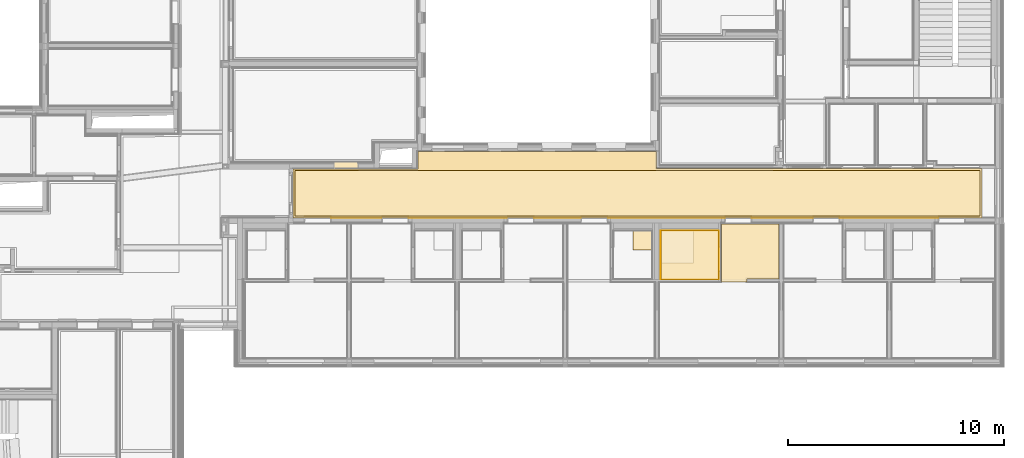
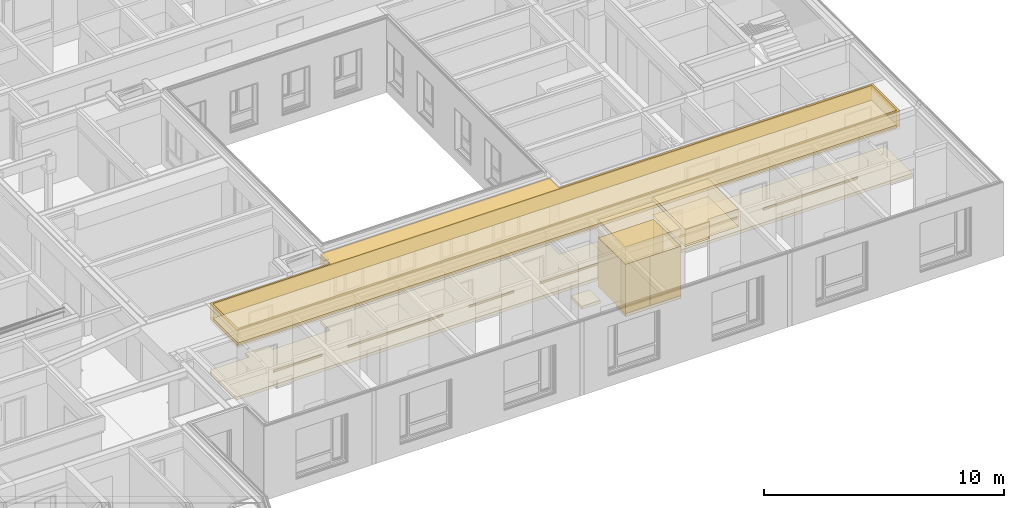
# One storey, part 186 of 222: 22 coverings.
"""IFC4 building model written with IfcOpenShell, lengths in metres."""

from ifc_helpers import new_model, entity, si_unit, converted_unit, derived_unit, frame, frame_2d, origin, origin_with_axes, place, context, subcontext, project, spatial, polyline, rectangle, outline, extrude, material, layer, layer_set, layer_usage, element, save


model = new_model("IFC4")

# Units and contexts
model_context = context("Model", 3, precision=1e-05, world=origin())
body_context = subcontext(model_context, "Body", "Model", "MODEL_VIEW")
ifc_project = project(units=[si_unit("LENGTHUNIT", "METRE"), si_unit("AREAUNIT", "SQUARE_METRE"), si_unit("VOLUMEUNIT", "CUBIC_METRE"), si_unit("MASSUNIT", "GRAM", prefix="KILO"), converted_unit("PLANEANGLEUNIT", "DEGREE", entity("IfcPlaneAngleMeasure", 0.0174532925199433), si_unit("PLANEANGLEUNIT", "RADIAN"), dimensions=[0, 0, 0, 0, 0, 0, 0]), derived_unit("THERMALTRANSMITTANCEUNIT", [(si_unit("POWERUNIT", "WATT"), 1), (si_unit("THERMODYNAMICTEMPERATUREUNIT", "KELVIN"), -1), (si_unit("LENGTHUNIT", "METRE"), -2)]), derived_unit("VOLUMETRICFLOWRATEUNIT", [(si_unit("LENGTHUNIT", "METRE"), 3), (converted_unit("TIMEUNIT", "hour", entity("IfcTimeMeasure", 3600.0), si_unit("TIMEUNIT", "SECOND"), dimensions=[0, 0, 1, 0, 0, 0, 0]), -1), (si_unit("LENGTHUNIT", "METRE"), -1)])], contexts=[model_context])

# Site, building, storey, space
site_placement = place(None, origin())
site = spatial("IfcSite", under=ifc_project, at=site_placement, Name="Psychiatrie Neubau Wunstorf", CompositionType="ELEMENT")
building_placement = place(site_placement, origin())
building = spatial("IfcBuilding", under=site, at=building_placement, Name="Neubau H2 Stationsgebäude", CompositionType="ELEMENT")
storey_placement = place(building_placement, frame((0.0, 0.0, 3.6)))
storey = spatial("IfcBuildingStorey", under=building, at=storey_placement, Name="H2 Ebene +1", CompositionType="ELEMENT", Elevation=3.6)
space_1_placement = place(storey_placement, frame((73.3949999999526, 5.33250000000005, 0.0)))
space_1 = spatial("IfcSpace", under=storey, at=space_1_placement, Name="WUN-H2-E01-073", CompositionType="ELEMENT")

# Coverings
ifc_material_1 = material(Name="97")
ifc_layer_1 = layer(ifc_material_1, 0.001)
ifc_layer_set_1 = layer_set([ifc_layer_1])
ifc_layer_usage_1 = layer_usage(ifc_layer_set_1, "AXIS3", "POSITIVE", 0.0)
covering_1_placement = place(space_1_placement, frame((1.77500000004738, 0.0, 0.8)))
element("IfcCovering", 1, at=covering_1_placement, inside=space_1, material=ifc_layer_usage_1, Name="Handlauf", PredefinedType="CLADDING", context=body_context, shape_type="SweptSolid", body=[
    extrude(rectangle(XDim=0.1, YDim=5.39999999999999, at=frame_2d((2.69999999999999, 0.05), x_axis=(0.0, 1.0))), frame((12.8050000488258, 0.0, 0.1), z_axis=(3.3684988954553e-16, 1.0, 0.0), x_axis=(1.0, -3.3684988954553e-16, 0.0)), (0.0, 0.0, 1.0), 0.001),
    extrude(rectangle(XDim=0.1, YDim=2.32, at=frame_2d((-1.16, -0.05), x_axis=(0.0, -1.0))), frame((2.32, 0.0, 0.0), z_axis=(3.920235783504e-16, 1.0, 0.0), x_axis=(1.0, -3.920235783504e-16, 0.0)), (0.0, 0.0, 1.0), 0.001),
    extrude(rectangle(XDim=0.1, YDim=2.15500004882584, at=frame_2d((-1.07750002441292, -0.05), x_axis=(0.0, -1.0))), frame((11.5450000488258, 0.0, 0.0), z_axis=(2.11019647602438e-16, 1.0, 4.54747350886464e-15), x_axis=(1.0, -2.11019647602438e-16, 0.0)), (0.0, 0.0, 1.0), 0.001),
    extrude(rectangle(XDim=0.1, YDim=4.54999999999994, at=frame_2d((-2.27499999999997, -0.05), x_axis=(0.0, -1.0))), frame((8.12999999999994, 0.0, 0.0), z_axis=(1.99888945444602e-16, 1.0, 0.0), x_axis=(1.0, -1.99888945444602e-16, 0.0)), (0.0, 0.0, 1.0), 0.001),
    extrude(rectangle(XDim=0.1, YDim=2.80499995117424, at=frame_2d((1.40249997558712, 0.05), x_axis=(0.0, 1.0))), frame((19.4650000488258, 0.0, 0.1), z_axis=(3.24240541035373e-16, 1.0, -9.09494701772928e-15), x_axis=(1.0, -3.24240541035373e-16, 0.0)), (0.0, 0.0, 1.0), 0.001),
    extrude(rectangle(XDim=0.0999999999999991, YDim=4.54999999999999, at=frame_2d((2.275, 0.0499999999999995), x_axis=(1.4551915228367e-13, 1.0))), frame((23.53, 0.0, 0.0999999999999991), z_axis=(1.998889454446e-16, 1.0, 1.45438349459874e-29), x_axis=(1.0, -1.998889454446e-16, 0.0)), (0.0, 0.0, 1.0), 0.001),
])
ifc_material_2 = material()
ifc_layer_2 = layer(ifc_material_2, 0.036)
ifc_layer_set_2 = layer_set([ifc_layer_2])
ifc_layer_usage_2 = layer_usage(ifc_layer_set_2, "AXIS3", "POSITIVE", 0.0)
covering_2_placement = place(space_1_placement, frame((0.0, 0.0, 3.55)))
element("IfcCovering", 2, at=covering_2_placement, inside=space_1, material=ifc_layer_usage_2, Name="Gipsfaserplatten 2-lagig (BSK)", PredefinedType="CEILING", context=body_context, shape_type="SweptSolid", body=[
    extrude(outline(polyline([(5.7849996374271, 0.0), (16.8160000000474, 0.0), (16.8160000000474, 0.789000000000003), (31.8940000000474, 0.789000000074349), (31.8940000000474, 3.08149999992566), (0.0, 3.08149999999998), (0.0, 0.806499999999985), (5.7849996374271, 0.806499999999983), (5.7849996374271, 0.0)]), holes=[polyline([(31.7940000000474, 2.98149999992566), (31.7940000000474, 0.889000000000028), (0.1, 0.889000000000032), (0.1, 2.98149999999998), (31.7940000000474, 2.98149999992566)])]), frame((0.0, 3.08149999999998, 0.0), z_axis=(0.0, 0.0, -1.0), x_axis=(1.0, 0.0, 0.0)), (0.0, 0.0, 1.0), 0.036),
])
ifc_material_3 = material(Name="Installationshöhe")
ifc_layer_3 = layer(ifc_material_3, 0.714)
ifc_layer_set_3 = layer_set([ifc_layer_3])
ifc_layer_usage_3 = layer_usage(ifc_layer_set_3, "AXIS3", "POSITIVE", 0.0)
covering_3_placement = place(space_1_placement, frame((0.0, 0.0, 3.514)))
element("IfcCovering", 3, at=covering_3_placement, inside=space_1, material=ifc_layer_usage_3, Name="Gipsfaserplatten 2-lagig (BSK)", PredefinedType="CEILING", context=body_context, shape_type="SweptSolid", body=[
    extrude(outline(polyline([(5.7849996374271, 0.0), (16.8160000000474, 0.0), (16.8160000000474, 0.789000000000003), (31.8940000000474, 0.789000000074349), (31.8940000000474, 3.08149999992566), (0.0, 3.08149999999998), (0.0, 0.806499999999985), (5.7849996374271, 0.806499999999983), (5.7849996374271, 0.0)]), holes=[polyline([(31.7940000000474, 2.98149999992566), (31.7940000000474, 0.889000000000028), (0.1, 0.889000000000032), (0.1, 2.98149999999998), (31.7940000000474, 2.98149999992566)])]), frame((0.0, 3.08149999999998, 0.0), z_axis=(0.0, 0.0, -1.0), x_axis=(1.0, 0.0, 0.0)), (0.0, 0.0, 1.0), 0.714),
])
ifc_material_4 = material(Name="A1")
ifc_layer_4 = layer(ifc_material_4, 0.15)
ifc_layer_set_4 = layer_set([ifc_layer_4])
ifc_layer_usage_4 = layer_usage(ifc_layer_set_4, "AXIS3", "POSITIVE", 0.0)
covering_4_placement = place(space_1_placement, frame((0.0, 0.0, 2.8)))
element("IfcCovering", 4, at=covering_4_placement, inside=space_1, material=ifc_layer_usage_4, Name="Gipsfaserplatten 2-lagig (BSK)", PredefinedType="CEILING", context=body_context, shape_type="SweptSolid", body=[
    extrude(outline(polyline([(5.7849996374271, 0.0), (16.8160000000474, 0.0), (16.8160000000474, 0.789000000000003), (31.8940000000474, 0.789000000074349), (31.8940000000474, 3.08149999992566), (0.0, 3.08149999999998), (0.0, 0.806499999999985), (5.7849996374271, 0.806499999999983), (5.7849996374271, 0.0)]), holes=[polyline([(31.7940000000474, 2.98149999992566), (31.7940000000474, 0.889000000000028), (0.1, 0.889000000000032), (0.1, 2.98149999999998), (31.7940000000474, 2.98149999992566)])]), frame((0.0, 3.08149999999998, 0.0), z_axis=(0.0, 0.0, -1.0), x_axis=(1.0, 0.0, 0.0)), (0.0, 0.0, 1.0), 0.15),
])
ifc_material_5 = material(Name="D1")
ifc_layer_5 = layer(ifc_material_5, 0.001)
ifc_layer_set_5 = layer_set([ifc_layer_5])
ifc_layer_usage_5 = layer_usage(ifc_layer_set_5, "AXIS3", "POSITIVE", 0.0)
covering_5_placement = place(space_1_placement, frame((0.0, 0.0, 2.65)))
element("IfcCovering", 5, at=covering_5_placement, inside=space_1, material=ifc_layer_usage_5, Name="Gipsfaserplatten 2-lagig (BSK)", PredefinedType="CEILING", context=body_context, shape_type="SweptSolid", body=[
    extrude(outline(polyline([(5.7849996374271, 0.0), (16.8160000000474, 0.0), (16.8160000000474, 0.789000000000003), (31.8940000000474, 0.789000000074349), (31.8940000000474, 3.08149999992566), (0.0, 3.08149999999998), (0.0, 0.806499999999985), (5.7849996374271, 0.806499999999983), (5.7849996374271, 0.0)]), holes=[polyline([(31.7940000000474, 2.98149999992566), (31.7940000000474, 0.889000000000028), (0.1, 0.889000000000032), (0.1, 2.98149999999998), (31.7940000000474, 2.98149999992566)])]), frame((0.0, 3.08149999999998, 0.0), z_axis=(0.0, 0.0, -1.0), x_axis=(1.0, 0.0, 0.0)), (0.0, 0.0, 1.0), 0.001),
])
ifc_material_6 = material()
ifc_layer_6 = layer(ifc_material_6, 0.036)
ifc_layer_set_6 = layer_set([ifc_layer_6])
ifc_layer_usage_6 = layer_usage(ifc_layer_set_6, "AXIS3", "POSITIVE", 0.0)
covering_6_placement = place(space_1_placement, frame((0.1, 0.1, 3.55)))
element("IfcCovering", 6, at=covering_6_placement, inside=space_1, material=ifc_layer_usage_6, Name="Gipsfaserplatten 2-lagig (BSK)", PredefinedType="CEILING", context=body_context, shape_type="SweptSolid", body=[
    extrude(rectangle(XDim=2.09249999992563, YDim=31.6940000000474, at=frame_2d((-15.8470000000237, 1.04624999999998), x_axis=(-6.95432030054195e-15, 1.0))), frame((31.6940000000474, 2.09249999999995, 0.0), z_axis=(0.0, 0.0, -1.0), x_axis=(1.0, 0.0, 0.0)), (0.0, 0.0, 1.0), 0.036),
])
ifc_material_7 = material(Name="Installationshöhe")
ifc_layer_7 = layer(ifc_material_7, 0.714)
ifc_layer_set_7 = layer_set([ifc_layer_7])
ifc_layer_usage_7 = layer_usage(ifc_layer_set_7, "AXIS3", "POSITIVE", 0.0)
covering_7_placement = place(space_1_placement, frame((0.1, 0.1, 3.514)))
element("IfcCovering", 7, at=covering_7_placement, inside=space_1, material=ifc_layer_usage_7, Name="Gipsfaserplatten 2-lagig (BSK)", PredefinedType="CEILING", context=body_context, shape_type="SweptSolid", body=[
    extrude(rectangle(XDim=2.09249999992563, YDim=31.6940000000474, at=frame_2d((-15.8470000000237, 1.04624999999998), x_axis=(-6.95432030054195e-15, 1.0))), frame((31.6940000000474, 2.09249999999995, 0.0), z_axis=(0.0, 0.0, -1.0), x_axis=(1.0, 0.0, 0.0)), (0.0, 0.0, 1.0), 0.714),
])
ifc_material_8 = material(Name="Aa")
ifc_layer_8 = layer(ifc_material_8, 0.15)
ifc_layer_set_8 = layer_set([ifc_layer_8])
ifc_layer_usage_8 = layer_usage(ifc_layer_set_8, "AXIS3", "POSITIVE", 0.0)
covering_8_placement = place(space_1_placement, frame((0.1, 0.1, 2.8)))
element("IfcCovering", 8, at=covering_8_placement, inside=space_1, material=ifc_layer_usage_8, Name="Gipsfaserplatten 2-lagig (BSK)", PredefinedType="CEILING", context=body_context, shape_type="SweptSolid", body=[
    extrude(rectangle(XDim=2.09249999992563, YDim=31.6940000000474, at=frame_2d((-15.8470000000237, 1.04624999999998), x_axis=(-6.95432030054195e-15, 1.0))), frame((31.6940000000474, 2.09249999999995, 0.0), z_axis=(0.0, 0.0, -1.0), x_axis=(1.0, 0.0, 0.0)), (0.0, 0.0, 1.0), 0.15),
])
ifc_material_9 = material(Name="D1")
ifc_layer_9 = layer(ifc_material_9, 0.001)
ifc_layer_set_9 = layer_set([ifc_layer_9])
ifc_layer_usage_9 = layer_usage(ifc_layer_set_9, "AXIS3", "POSITIVE", 0.0)
covering_9_placement = place(space_1_placement, frame((0.1, 0.1, 2.65)))
element("IfcCovering", 9, at=covering_9_placement, inside=space_1, material=ifc_layer_usage_9, Name="Gipsfaserplatten 2-lagig (BSK)", PredefinedType="CEILING", context=body_context, shape_type="SweptSolid", body=[
    extrude(rectangle(XDim=2.09249999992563, YDim=31.6940000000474, at=frame_2d((-15.8470000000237, 1.04624999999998), x_axis=(-6.95432030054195e-15, 1.0))), frame((31.6940000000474, 2.09249999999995, 0.0), z_axis=(0.0, 0.0, -1.0), x_axis=(1.0, 0.0, 0.0)), (0.0, 0.0, 1.0), 0.001),
])
ifc_material_10 = material(Name="Ku1")
ifc_layer_10 = layer(ifc_material_10, 0.15)
ifc_layer_set_10 = layer_set([ifc_layer_10])
ifc_layer_usage_10 = layer_usage(ifc_layer_set_10, "AXIS3", "POSITIVE", 0.0)
covering_10_placement = place(space_1_placement, frame((-0.0350000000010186, 0.0, 0.0)))
element("IfcCovering", 10, at=covering_10_placement, inside=space_1, material=ifc_layer_usage_10, Name="PVC Bahnenware Holzoptik", PredefinedType="FLOORING", context=body_context, shape_type="SweptSolid", body=[
    extrude(rectangle(XDim=0.0349999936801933, YDim=1.6825, at=frame_2d((0.84125, -0.0174999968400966), x_axis=(0.0, -1.0))), frame((22.8775000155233, 2.32749988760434, 0.0), z_axis=(-1.35140349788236e-16, -6.49639084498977e-15, 1.0), x_axis=(1.0, 0.0, 0.0)), (0.0, 6.49639084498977e-15, 1.0), 0.15),
    extrude(rectangle(XDim=0.0350000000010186, YDim=1.965, at=frame_2d((0.0175000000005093, 0.9825), x_axis=(1.0, 0.0))), frame((0.0, 0.154999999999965, 0.0), z_axis=(0.0, 0.0, 1.0), x_axis=(1.0, 0.0, 0.0)), (0.0, 0.0, 1.0), 0.15),
    extrude(rectangle(XDim=0.321999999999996, YDim=1.135, at=frame_2d((-0.5675, 0.160999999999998), x_axis=(0.0, 1.0))), frame((3.06000000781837, 2.275, 0.0), z_axis=(0.0, 0.0, 1.0), x_axis=(1.0, 0.0, 0.0)), (0.0, 0.0, 1.0), 0.15),
    extrude(outline(polyline([(5.7849996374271, 2.275), (0.0, 2.27499999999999), (0.0, 0.0), (32.4940000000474, 0.0), (32.4940000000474, 2.29249999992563), (16.8160000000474, 2.29249989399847), (16.8160000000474, 3.08149999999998), (5.7849996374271, 3.08149999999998), (5.7849996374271, 2.275)])), frame((0.0350000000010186, 0.0, 0.0), z_axis=(0.0, 0.0, 1.0), x_axis=(1.0, 0.0, 0.0)), (0.0, 0.0, 1.0), 0.15),
])

# Space
space_2_placement = place(storey_placement, frame((90.3499999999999, -1.16399999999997, 0.0)))
space_2 = spatial("IfcSpace", under=storey, at=space_2_placement, Name="WUN-H2-E01-092", CompositionType="ELEMENT")

# Coverings
ifc_material_11 = material()
ifc_layer_11 = layer(ifc_material_11, 0.036)
ifc_layer_set_11 = layer_set([ifc_layer_11])
ifc_layer_usage_11 = layer_usage(ifc_layer_set_11, "AXIS3", "POSITIVE", 0.0)
covering_11_placement = place(space_2_placement, frame((2.87500004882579, 3.52449999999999, 3.55)))
element("IfcCovering", 11, at=covering_11_placement, inside=space_2, material=ifc_layer_usage_11, Name="Gipsfaserplatten 2-lagig (BSK)", PredefinedType="CEILING", context=body_context, shape_type="SweptSolid", body=[
    extrude(outline(polyline([(2.67499995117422, 2.55), (1.17499995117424, 2.55), (1.17499995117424, 2.7), (0.0, 2.7), (0.0, 0.0), (2.67499995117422, 0.0), (2.67499995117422, 2.55)])), frame((0.0, 2.7, 0.0), z_axis=(0.0, 0.0, -1.0), x_axis=(1.0, 0.0, 0.0)), (0.0, 0.0, 1.0), 0.036),
])
ifc_material_12 = material(Name="Installationshöhe")
ifc_layer_12 = layer(ifc_material_12, 0.764)
ifc_layer_set_12 = layer_set([ifc_layer_12])
ifc_layer_usage_12 = layer_usage(ifc_layer_set_12, "AXIS3", "POSITIVE", 0.0)
covering_12_placement = place(space_2_placement, frame((2.87500004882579, 3.52449999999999, 3.514)))
element("IfcCovering", 12, at=covering_12_placement, inside=space_2, material=ifc_layer_usage_12, Name="Gipsfaserplatten 2-lagig (BSK)", PredefinedType="CEILING", context=body_context, shape_type="SweptSolid", body=[
    extrude(outline(polyline([(2.67499995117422, 2.55), (1.17499995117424, 2.55), (1.17499995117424, 2.7), (0.0, 2.7), (0.0, 0.0), (2.67499995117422, 0.0), (2.67499995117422, 2.55)])), frame((0.0, 2.7, 0.0), z_axis=(0.0, 0.0, -1.0), x_axis=(1.0, 0.0, 0.0)), (0.0, 0.0, 1.0), 0.764),
])
ifc_material_13 = material(Name="A1")
ifc_layer_13 = layer(ifc_material_13, 0.1)
ifc_layer_set_13 = layer_set([ifc_layer_13])
ifc_layer_usage_13 = layer_usage(ifc_layer_set_13, "AXIS3", "POSITIVE", 0.0)
covering_13_placement = place(space_2_placement, frame((2.87500004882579, 3.52449999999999, 2.75)))
element("IfcCovering", 13, at=covering_13_placement, inside=space_2, material=ifc_layer_usage_13, Name="Gipsfaserplatten 2-lagig (BSK)", PredefinedType="CEILING", context=body_context, shape_type="SweptSolid", body=[
    extrude(outline(polyline([(2.67499995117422, 2.55), (1.17499995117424, 2.55), (1.17499995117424, 2.7), (0.0, 2.7), (0.0, 0.0), (2.67499995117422, 0.0), (2.67499995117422, 2.55)])), frame((0.0, 2.7, 0.0), z_axis=(0.0, 0.0, -1.0), x_axis=(1.0, 0.0, 0.0)), (0.0, 0.0, 1.0), 0.1),
])
ifc_material_14 = material(Name="D1")
ifc_layer_14 = layer(ifc_material_14, 0.001)
ifc_layer_set_14 = layer_set([ifc_layer_14])
ifc_layer_usage_14 = layer_usage(ifc_layer_set_14, "AXIS3", "POSITIVE", 0.0)
covering_14_placement = place(space_2_placement, frame((2.87500004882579, 3.52449999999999, 2.65)))
element("IfcCovering", 14, at=covering_14_placement, inside=space_2, material=ifc_layer_usage_14, Name="Gipsfaserplatten 2-lagig (BSK)", PredefinedType="CEILING", context=body_context, shape_type="SweptSolid", body=[
    extrude(outline(polyline([(2.67499995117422, 2.55), (1.17499995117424, 2.55), (1.17499995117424, 2.7), (0.0, 2.7), (0.0, 0.0), (2.67499995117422, 0.0), (2.67499995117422, 2.55)])), frame((0.0, 2.7, 0.0), z_axis=(0.0, 0.0, -1.0), x_axis=(1.0, 0.0, 0.0)), (0.0, 0.0, 1.0), 0.001),
])

# Space
space_3_placement = place(storey_placement, frame((90.4250000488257, 2.48550005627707, 0.0)))
space_3 = spatial("IfcSpace", under=storey, at=space_3_placement, Name="WUN-H2-E01-092a", CompositionType="ELEMENT")

# Coverings
ifc_material_15 = material(Name="Fl1")
ifc_layer_15 = layer(ifc_material_15, 0.15)
ifc_layer_set_15 = layer_set([ifc_layer_15])
ifc_layer_usage_15 = layer_usage(ifc_layer_set_15, "AXIS3", "POSITIVE", 0.0)
covering_15_placement = place(space_3_placement, origin())
element("IfcCovering", 15, at=covering_15_placement, inside=space_3, material=ifc_layer_usage_15, Name="Fliesen", PredefinedType="FLOORING", context=body_context, shape_type="SweptSolid", body=[
    extrude(rectangle(XDim=0.125, YDim=1.135, at=frame_2d((-0.0625, -0.5675), x_axis=(-1.0, 0.0))), frame((2.80000000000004, 1.50999994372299, 0.0), z_axis=(0.0, 0.0, 1.0), x_axis=(1.0, 0.0, 0.0)), (0.0, 0.0, 1.0), 0.15),
    extrude(outline(polyline([(2.67500000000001, 2.26500000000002), (1.5, 2.26499994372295), (1.5, 0.76499994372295), (0.0, 0.76499994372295), (0.0, 0.0), (2.67500000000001, 5.62770696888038e-08), (2.67500000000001, 2.26500000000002)])), origin_with_axes(), (0.0, 0.0, 1.0), 0.15),
])
ifc_material_16 = material()
ifc_layer_16 = layer(ifc_material_16, 0.036)
ifc_layer_set_16 = layer_set([ifc_layer_16])
ifc_layer_usage_16 = layer_usage(ifc_layer_set_16, "AXIS3", "POSITIVE", 0.0)
covering_16_placement = place(space_3_placement, frame((0.0, 0.0, 3.55)))
element("IfcCovering", 16, at=covering_16_placement, inside=space_3, material=ifc_layer_usage_16, Name="Gipsfaserplatten 2-lagig (BSK)", PredefinedType="CEILING", context=body_context, shape_type="SweptSolid", body=[
    extrude(rectangle(XDim=2.67500000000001, YDim=2.26499994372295, at=frame_2d((1.33750000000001, 1.13249994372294), x_axis=(1.0, -2.10381567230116e-08))), frame((0.0, 2.26499994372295, 0.0), z_axis=(0.0, 0.0, -1.0), x_axis=(1.0, 0.0, 0.0)), (0.0, 0.0, 1.0), 0.036),
])
ifc_material_17 = material(Name="Installationshöhe")
ifc_layer_17 = layer(ifc_material_17, 0.764)
ifc_layer_set_17 = layer_set([ifc_layer_17])
ifc_layer_usage_17 = layer_usage(ifc_layer_set_17, "AXIS3", "POSITIVE", 0.0)
covering_17_placement = place(space_3_placement, frame((0.0, 0.0, 3.514)))
element("IfcCovering", 17, at=covering_17_placement, inside=space_3, material=ifc_layer_usage_17, Name="Gipsfaserplatten 2-lagig (BSK)", PredefinedType="CEILING", context=body_context, shape_type="SweptSolid", body=[
    extrude(rectangle(XDim=2.67500000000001, YDim=2.26499994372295, at=frame_2d((1.33750000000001, 1.13249994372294), x_axis=(1.0, -2.10381567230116e-08))), frame((0.0, 2.26499994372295, 0.0), z_axis=(0.0, 0.0, -1.0), x_axis=(1.0, 0.0, 0.0)), (0.0, 0.0, 1.0), 0.764),
])
ifc_material_18 = material(Name="B")
ifc_layer_18 = layer(ifc_material_18, 0.1)
ifc_layer_set_18 = layer_set([ifc_layer_18])
ifc_layer_usage_18 = layer_usage(ifc_layer_set_18, "AXIS3", "POSITIVE", 0.0)
covering_18_placement = place(space_3_placement, frame((0.0, 0.0, 2.75)))
element("IfcCovering", 18, at=covering_18_placement, inside=space_3, material=ifc_layer_usage_18, Name="Gipskarton, imprägniert", PredefinedType="CEILING", context=body_context, shape_type="SweptSolid", body=[
    extrude(rectangle(XDim=2.67500000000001, YDim=2.26499994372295, at=frame_2d((1.33750000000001, 1.13249994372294), x_axis=(1.0, -2.10381567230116e-08))), frame((0.0, 2.26499994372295, 0.0), z_axis=(0.0, 0.0, -1.0), x_axis=(1.0, 0.0, 0.0)), (0.0, 0.0, 1.0), 0.1),
])
ifc_material_19 = material(Name="D1")
ifc_layer_19 = layer(ifc_material_19, 0.001)
ifc_layer_set_19 = layer_set([ifc_layer_19])
ifc_layer_usage_19 = layer_usage(ifc_layer_set_19, "AXIS3", "POSITIVE", 0.0)
covering_19_placement = place(space_3_placement, frame((0.0, 0.0, 2.65)))
element("IfcCovering", 19, at=covering_19_placement, inside=space_3, material=ifc_layer_usage_19, Name="Gipsfaserplatten 2-lagig (BSK)", PredefinedType="CEILING", context=body_context, shape_type="SweptSolid", body=[
    extrude(rectangle(XDim=2.67500000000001, YDim=2.26499994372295, at=frame_2d((1.33750000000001, 1.13249994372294), x_axis=(1.0, -2.10381567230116e-08))), frame((0.0, 2.26499994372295, 0.0), z_axis=(0.0, 0.0, -1.0), x_axis=(1.0, 0.0, 0.0)), (0.0, 0.0, 1.0), 0.001),
])
ifc_material_20 = material(Name="50")
ifc_layer_20 = layer(ifc_material_20, 0.001)
ifc_layer_set_20 = layer_set([ifc_layer_20])
ifc_layer_usage_20 = layer_usage(ifc_layer_set_20, "AXIS3", "POSITIVE", 0.0)
covering_20_placement = place(space_3_placement, frame((1.2, 2.52457880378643e-08, 0.15)))
element("IfcCovering", 20, at=covering_20_placement, inside=space_3, material=ifc_layer_usage_20, PredefinedType="CLADDING", context=body_context, shape_type="SweptSolid", body=[
    extrude(rectangle(XDim=1.47500000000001, YDim=2.5, at=frame_2d((0.737500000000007, -1.25), x_axis=(1.0, 0.0))), frame((0.0, 0.0, 0.0), z_axis=(-2.10381570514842e-08, 1.0, 0.0), x_axis=(1.0, 2.10381570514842e-08, 0.0)), (0.0, 0.0, 1.0), 0.001),
    extrude(outline(polyline([(0.0, 2.5), (0.374999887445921, 2.5), (0.374999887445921, 0.24), (1.50999988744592, 0.24), (1.50999988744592, 2.5), (1.52499988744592, 2.5), (1.52499988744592, 0.0), (0.0, 0.0), (0.0, 2.5)])), frame((1.47500000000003, 3.10312816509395e-08, 2.5), z_axis=(-1.0, 0.0, 3.28557568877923e-15), x_axis=(0.0, 1.0, 0.0)), (0.0, 0.0, 1.0), 0.001),
])
ifc_material_21 = material(Name="68")
ifc_layer_21 = layer(ifc_material_21, 0.01)
ifc_layer_set_21 = layer_set([ifc_layer_21])
ifc_layer_usage_21 = layer_usage(ifc_layer_set_21, "AXIS3", "POSITIVE", 0.0)
covering_21_placement = place(space_3_placement, frame((0.0, -5.62770678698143e-08, 0.15)))
element("IfcCovering", 21, at=covering_21_placement, inside=space_3, material=ifc_layer_usage_21, Name="a-sh Wandbelag", PredefinedType="CLADDING", context=body_context, shape_type="SweptSolid", body=[
    extrude(rectangle(XDim=0.74000005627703, YDim=2.5, at=frame_2d((0.370000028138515, -1.25), x_axis=(1.0, 0.0))), frame((2.67500000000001, 1.52500000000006, 0.0), z_axis=(-1.0, 0.0, 0.0), x_axis=(0.0, 1.0, 0.0)), (0.0, 0.0, 1.0), 0.01),
    extrude(rectangle(XDim=2.26500005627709, YDim=2.5, at=frame_2d((1.13250002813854, -1.25), x_axis=(1.0, 0.0))), frame((0.0, 2.26500005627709, 0.0), z_axis=(1.0, 0.0, 0.0), x_axis=(0.0, -1.0, 0.0)), (0.0, 0.0, 1.0), 0.01),
    extrude(rectangle(XDim=1.2, YDim=2.5, at=frame_2d((0.6, -1.25), x_axis=(1.0, 0.0))), frame((0.0, 0.0, 0.0), z_axis=(0.0, 1.0, 0.0), x_axis=(1.0, 0.0, 0.0)), (0.0, 0.0, 1.0), 0.01),
    extrude(rectangle(XDim=2.67500000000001, YDim=2.5, at=frame_2d((1.33750000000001, -1.25), x_axis=(1.0, 0.0))), frame((2.67500000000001, 2.26500005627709, 0.0), z_axis=(0.0, -1.0, 0.0), x_axis=(-1.0, 0.0, 0.0)), (0.0, 0.0, 1.0), 0.01),
])

# Space
space_4_placement = place(storey_placement, frame((88.2250000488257, 2.48550000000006, 0.0)))
space_4 = spatial("IfcSpace", under=storey, at=space_4_placement, Name="WUN-H2-E01-093a", CompositionType="ELEMENT")

# Covering
ifc_material_22 = material(Name="Fl2")
ifc_layer_22 = layer(ifc_material_22, 0.15)
ifc_layer_set_22 = layer_set([ifc_layer_22])
ifc_layer_usage_22 = layer_usage(ifc_layer_set_22, "AXIS3", "POSITIVE", 0.0)
covering_22_placement = place(space_4_placement, frame((0.899999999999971, 1.36499999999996, 0.0)))
element("IfcCovering", 22, at=covering_22_placement, inside=space_4, material=ifc_layer_usage_22, Name="Fliesen Mosaik", PredefinedType="FLOORING", context=body_context, shape_type="SweptSolid", body=[
    extrude(rectangle(XDim=0.9, YDim=0.9, at=frame_2d((-0.45, -0.45), x_axis=(-1.0, 0.0))), frame((0.9, 0.9, 0.0), z_axis=(0.0, 0.0, 1.0), x_axis=(1.0, 0.0, 0.0)), (0.0, 0.0, 1.0), 0.15),
])

save(model, "model.ifc")
